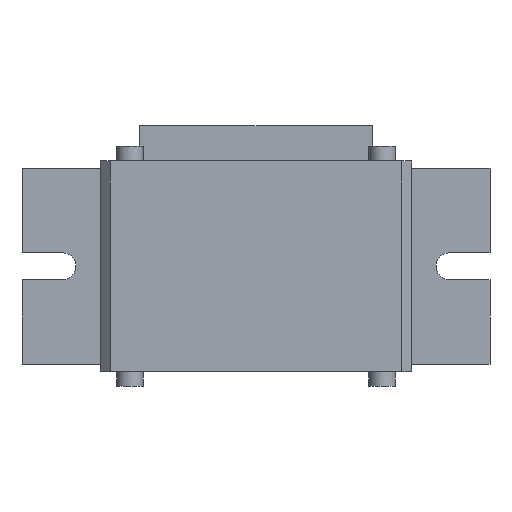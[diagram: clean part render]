
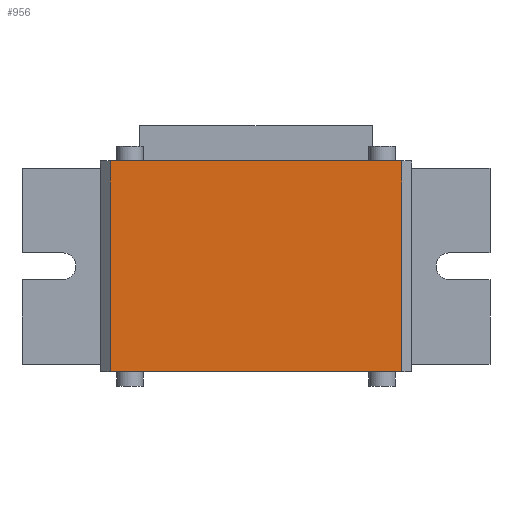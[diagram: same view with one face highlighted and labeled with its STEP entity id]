
A CAD part, front view. The second image highlights one B-rep face of the part: STEP entity #956.
In plain terms, the highlighted planar face has unit normal (0, -1, 0).
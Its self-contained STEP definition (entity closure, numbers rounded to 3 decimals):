
#108=FACE_OUTER_BOUND('',#172,.T.);
#172=EDGE_LOOP('',(#853,#854,#855,#856));
#241=LINE('',#1456,#349);
#250=LINE('',#1471,#358);
#256=LINE('',#1491,#364);
#280=LINE('',#1572,#388);
#349=VECTOR('',#1176,10.);
#358=VECTOR('',#1187,10.);
#364=VECTOR('',#1207,10.);
#388=VECTOR('',#1303,10.);
#438=VERTEX_POINT('',#1453);
#439=VERTEX_POINT('',#1455);
#444=VERTEX_POINT('',#1469);
#451=VERTEX_POINT('',#1489);
#545=EDGE_CURVE('',#438,#439,#241,.T.);
#554=EDGE_CURVE('',#438,#444,#250,.T.);
#564=EDGE_CURVE('',#451,#444,#256,.T.);
#600=EDGE_CURVE('',#451,#439,#280,.T.);
#853=ORIENTED_EDGE('',*,*,#545,.F.);
#854=ORIENTED_EDGE('',*,*,#554,.T.);
#855=ORIENTED_EDGE('',*,*,#564,.F.);
#856=ORIENTED_EDGE('',*,*,#600,.T.);
#901=PLANE('',#1045);
#956=ADVANCED_FACE('',(#108),#901,.F.);
#1045=AXIS2_PLACEMENT_3D('',#1573,#1304,#1305);
#1176=DIRECTION('',(0.,0.,1.));
#1187=DIRECTION('',(1.,0.,0.));
#1207=DIRECTION('',(0.,0.,-1.));
#1303=DIRECTION('',(-1.,0.,0.));
#1304=DIRECTION('center_axis',(0.,1.,0.));
#1305=DIRECTION('ref_axis',(1.,0.,0.));
#1453=CARTESIAN_POINT('',(2.,0.,0.));
#1455=CARTESIAN_POINT('',(2.,0.,43.));
#1456=CARTESIAN_POINT('',(2.,0.,10.75));
#1469=CARTESIAN_POINT('',(61.5,0.,0.));
#1471=CARTESIAN_POINT('',(0.,0.,0.));
#1489=CARTESIAN_POINT('',(61.5,0.,43.));
#1491=CARTESIAN_POINT('',(61.5,0.,32.25));
#1572=CARTESIAN_POINT('',(63.5,0.,43.));
#1573=CARTESIAN_POINT('Origin',(31.75,0.,21.5));
